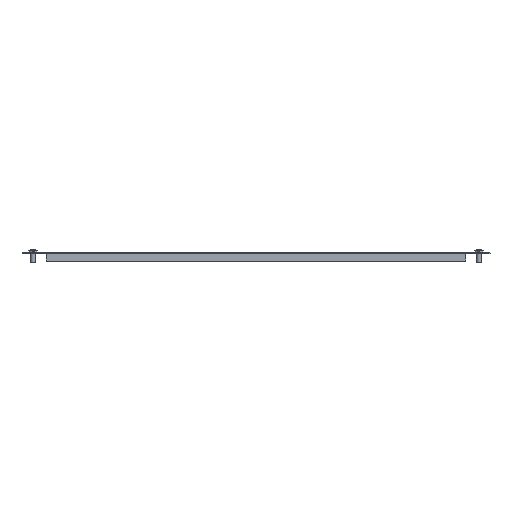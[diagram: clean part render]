
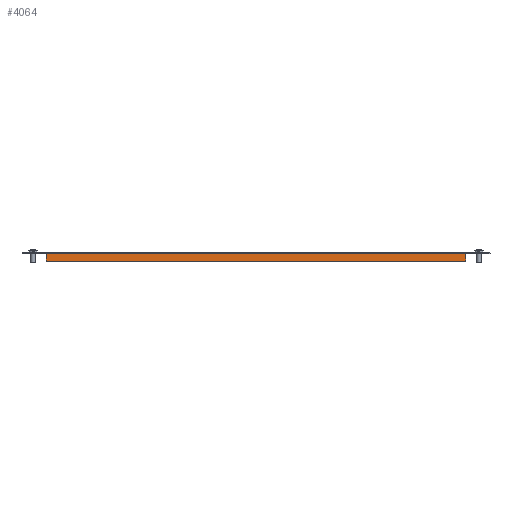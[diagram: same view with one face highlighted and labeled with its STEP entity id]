
A CAD part, front view. The second image highlights one B-rep face of the part: STEP entity #4064.
In plain terms, the highlighted planar face has unit normal (0, -1, 0).
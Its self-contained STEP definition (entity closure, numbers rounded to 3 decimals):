
#1 = VECTOR ( 'NONE', #3271, 1000. ) ;
#83 = CARTESIAN_POINT ( 'NONE',  ( -235.5, -735., 0. ) ) ;
#284 = CARTESIAN_POINT ( 'NONE',  ( 235.5, -735., -2.4 ) ) ;
#338 = FACE_OUTER_BOUND ( 'NONE', #2698, .T. ) ;
#597 = AXIS2_PLACEMENT_3D ( 'NONE', #5021, #3584, #2214 ) ;
#734 = CARTESIAN_POINT ( 'NONE',  ( 235.5, -735., -10. ) ) ;
#776 = CARTESIAN_POINT ( 'NONE',  ( 235.5, -735., -10. ) ) ;
#831 = DIRECTION ( 'NONE',  ( 0., 0., 1. ) ) ;
#837 = EDGE_CURVE ( 'NONE', #5129, #5964, #3220, .T. ) ;
#976 = VECTOR ( 'NONE', #4278, 1000. ) ;
#1190 = ORIENTED_EDGE ( 'NONE', *, *, #4794, .F. ) ;
#1233 = VERTEX_POINT ( 'NONE', #284 ) ;
#1468 = ORIENTED_EDGE ( 'NONE', *, *, #2238, .T. ) ;
#1498 = LINE ( 'NONE', #2842, #976 ) ;
#1547 = VERTEX_POINT ( 'NONE', #734 ) ;
#1609 = EDGE_CURVE ( 'NONE', #3541, #5129, #1498, .T. ) ;
#1949 = LINE ( 'NONE', #3503, #5845 ) ;
#2131 = ORIENTED_EDGE ( 'NONE', *, *, #837, .F. ) ;
#2214 = DIRECTION ( 'NONE',  ( 1., 0., 0. ) ) ;
#2238 = EDGE_CURVE ( 'NONE', #1233, #4447, #5930, .T. ) ;
#2410 = CARTESIAN_POINT ( 'NONE',  ( 0., -735., 0. ) ) ;
#2449 = ORIENTED_EDGE ( 'NONE', *, *, #6165, .F. ) ;
#2698 = EDGE_LOOP ( 'NONE', ( #2449, #1468, #4563, #2131, #2929, #1190 ) ) ;
#2779 = CARTESIAN_POINT ( 'NONE',  ( -235.5, -735., -2.4 ) ) ;
#2842 = CARTESIAN_POINT ( 'NONE',  ( -235.5, -735., -1.8 ) ) ;
#2920 = VECTOR ( 'NONE', #4605, 1000. ) ;
#2929 = ORIENTED_EDGE ( 'NONE', *, *, #1609, .F. ) ;
#3220 = LINE ( 'NONE', #5131, #5287 ) ;
#3271 = DIRECTION ( 'NONE',  ( -1., 0., 0. ) ) ;
#3503 = CARTESIAN_POINT ( 'NONE',  ( -235.5, -735., -10. ) ) ;
#3541 = VERTEX_POINT ( 'NONE', #3563 ) ;
#3563 = CARTESIAN_POINT ( 'NONE',  ( -235.5, -735., -10. ) ) ;
#3584 = DIRECTION ( 'NONE',  ( 0., -1., 0. ) ) ;
#3965 = DIRECTION ( 'NONE',  ( 0., 0., 1. ) ) ;
#4063 = DIRECTION ( 'NONE',  ( -1., 0., 0. ) ) ;
#4064 = ADVANCED_FACE ( 'NONE', ( #338 ), #5543, .T. ) ;
#4278 = DIRECTION ( 'NONE',  ( 0., 0., 1. ) ) ;
#4447 = VERTEX_POINT ( 'NONE', #5445 ) ;
#4462 = CARTESIAN_POINT ( 'NONE',  ( 235.5, -735., -2.4 ) ) ;
#4563 = ORIENTED_EDGE ( 'NONE', *, *, #5314, .T. ) ;
#4605 = DIRECTION ( 'NONE',  ( 0., 0., -1. ) ) ;
#4783 = VECTOR ( 'NONE', #3965, 1000. ) ;
#4794 = EDGE_CURVE ( 'NONE', #1547, #3541, #1949, .T. ) ;
#4799 = LINE ( 'NONE', #2410, #1 ) ;
#5021 = CARTESIAN_POINT ( 'NONE',  ( 0., -735., 0. ) ) ;
#5073 = LINE ( 'NONE', #776, #2920 ) ;
#5129 = VERTEX_POINT ( 'NONE', #2779 ) ;
#5131 = CARTESIAN_POINT ( 'NONE',  ( -235.5, -735., 0. ) ) ;
#5287 = VECTOR ( 'NONE', #831, 1000. ) ;
#5314 = EDGE_CURVE ( 'NONE', #4447, #5964, #4799, .T. ) ;
#5445 = CARTESIAN_POINT ( 'NONE',  ( 235.5, -735., 0. ) ) ;
#5543 = PLANE ( 'NONE',  #597 ) ;
#5845 = VECTOR ( 'NONE', #4063, 1000. ) ;
#5930 = LINE ( 'NONE', #4462, #4783 ) ;
#5964 = VERTEX_POINT ( 'NONE', #83 ) ;
#6165 = EDGE_CURVE ( 'NONE', #1233, #1547, #5073, .T. ) ;
